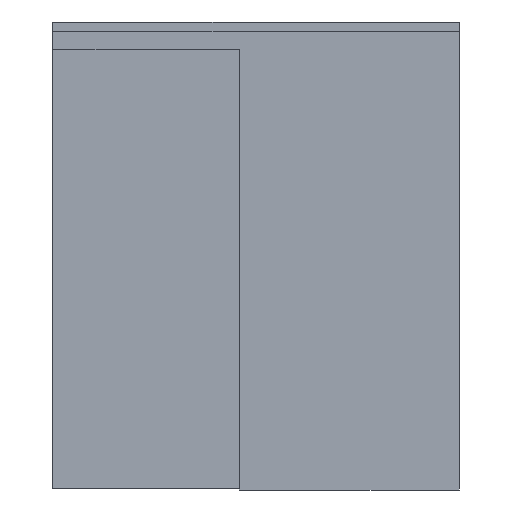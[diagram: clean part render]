
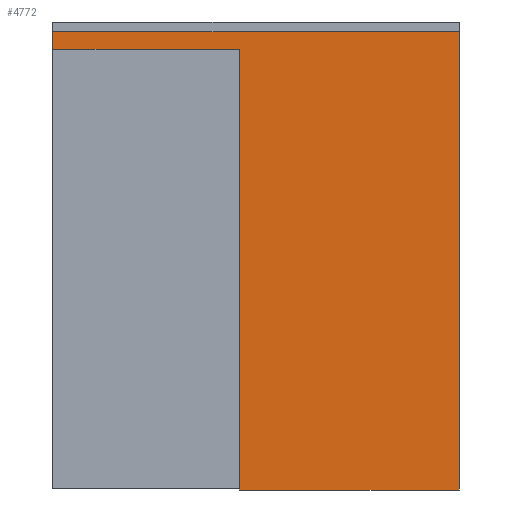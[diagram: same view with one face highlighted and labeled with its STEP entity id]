
A CAD part, front view. The second image highlights one B-rep face of the part: STEP entity #4772.
In plain terms, the highlighted planar face has unit normal (0, -1, 0).
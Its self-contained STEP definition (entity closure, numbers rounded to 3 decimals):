
#4772=ADVANCED_FACE('',(#9800),#9801,.F.);
#9800=FACE_OUTER_BOUND('',#14991,.T.);
#9801=PLANE('',#14992);
#14991=EDGE_LOOP('',(#28466,#28467,#28468,#28469,#28470,#28471));
#14992=AXIS2_PLACEMENT_3D('',#28472,#28473,#28474);
#28466=ORIENTED_EDGE('',*,*,#36110,.T.);
#28467=ORIENTED_EDGE('',*,*,#36100,.F.);
#28468=ORIENTED_EDGE('',*,*,#36104,.F.);
#28469=ORIENTED_EDGE('',*,*,#36108,.T.);
#28470=ORIENTED_EDGE('',*,*,#36111,.F.);
#28471=ORIENTED_EDGE('',*,*,#36112,.F.);
#28472=CARTESIAN_POINT('',(0.,-46.5,2333.0));
#28473=DIRECTION('',(0.0,1.0,-0.0));
#28474=DIRECTION('',(0.0,0.0,1.0));
#36100=EDGE_CURVE('',#44464,#44459,#44466,.T.);
#36104=EDGE_CURVE('',#44470,#44464,#44472,.T.);
#36108=EDGE_CURVE('',#44470,#44476,#44478,.T.);
#36110=EDGE_CURVE('',#44480,#44459,#44481,.T.);
#36111=EDGE_CURVE('',#44482,#44476,#44483,.T.);
#36112=EDGE_CURVE('',#44480,#44482,#44484,.T.);
#44459=VERTEX_POINT('',#56384);
#44464=VERTEX_POINT('',#56391);
#44466=LINE('',#56394,#56395);
#44470=VERTEX_POINT('',#56400);
#44472=LINE('',#56403,#56404);
#44476=VERTEX_POINT('',#56409);
#44478=LINE('',#56412,#56413);
#44480=VERTEX_POINT('',#56415);
#44481=LINE('',#56416,#56417);
#44482=VERTEX_POINT('',#56418);
#44483=LINE('',#56419,#56420);
#44484=LINE('',#56421,#56422);
#56384=CARTESIAN_POINT('',(965.,-46.5,2277.0));
#56391=CARTESIAN_POINT('',(965.,-46.5,0.0));
#56394=CARTESIAN_POINT('',(965.,-46.5,7.0));
#56395=VECTOR('',#64251,1.0);
#56400=CARTESIAN_POINT('',(2100.0,-46.5,0.0));
#56403=CARTESIAN_POINT('',(1277.5,-46.5,0.0));
#56404=VECTOR('',#64254,1.0);
#56409=CARTESIAN_POINT('',(2100.0,-46.5,2368.0));
#56412=CARTESIAN_POINT('',(2100.0,-46.5,7.0));
#56413=VECTOR('',#64257,1.0);
#56415=CARTESIAN_POINT('',(0.,-46.5,2277.0));
#56416=CARTESIAN_POINT('',(0.,-46.5,2277.0));
#56417=VECTOR('',#64258,1.0);
#56418=CARTESIAN_POINT('',(0.,-46.5,2368.0));
#56419=CARTESIAN_POINT('',(1270.0,-46.5,2368.0));
#56420=VECTOR('',#64259,1.0);
#56421=CARTESIAN_POINT('',(0.,-46.5,2301.0));
#56422=VECTOR('',#64260,1.0);
#64251=DIRECTION('',(0.0,0.0,1.0));
#64254=DIRECTION('',(-1.0,0.0,0.0));
#64257=DIRECTION('',(0.0,0.0,1.0));
#64258=DIRECTION('',(1.0,0.0,0.0));
#64259=DIRECTION('',(1.0,0.0,0.0));
#64260=DIRECTION('',(0.0,0.0,1.0));
